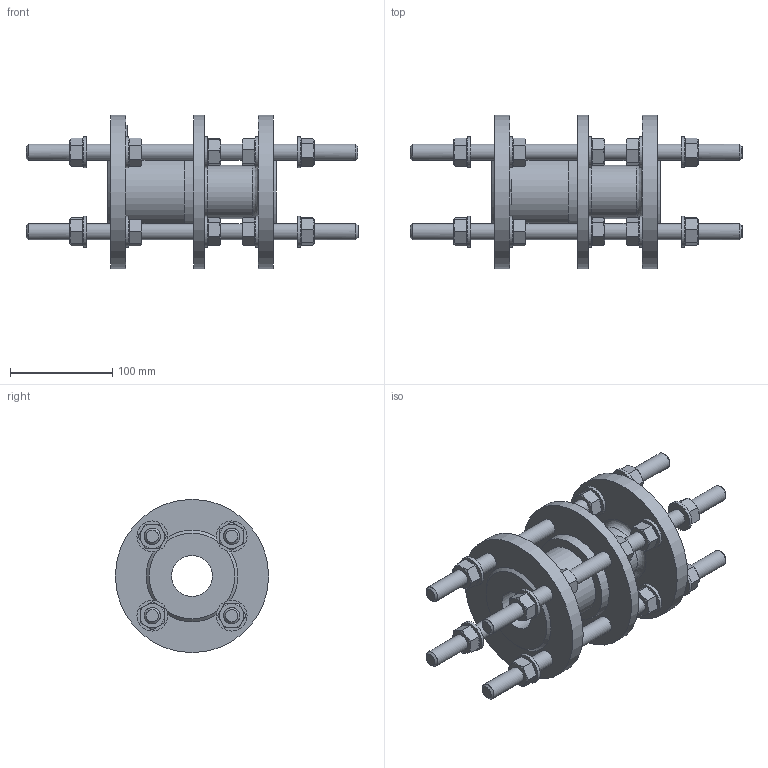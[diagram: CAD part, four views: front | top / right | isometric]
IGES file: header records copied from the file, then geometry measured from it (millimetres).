
Start section: SolidWorks IGES file using analytic representation for surfaces
Global section: file name: \\avksan2\techshare\PBM outline export from Enovia\O_265_910_DN40_1XXXXX00_L=165_REV01.igs; native system: SolidWorks 2022; preprocessor: SolidWorks 2022; author: pbm; date: 241011.095402; units: millimetre
Bounding box: 325 x 150 x 150 mm (x, y, z)
Surface area: 229256.7 mm2 (no closed solid volume)
Topology: 0 solids, 0 shells, 549 faces, 2293 edges, 2210 vertices
Faces by surface type: bspline 344, revolution 205
